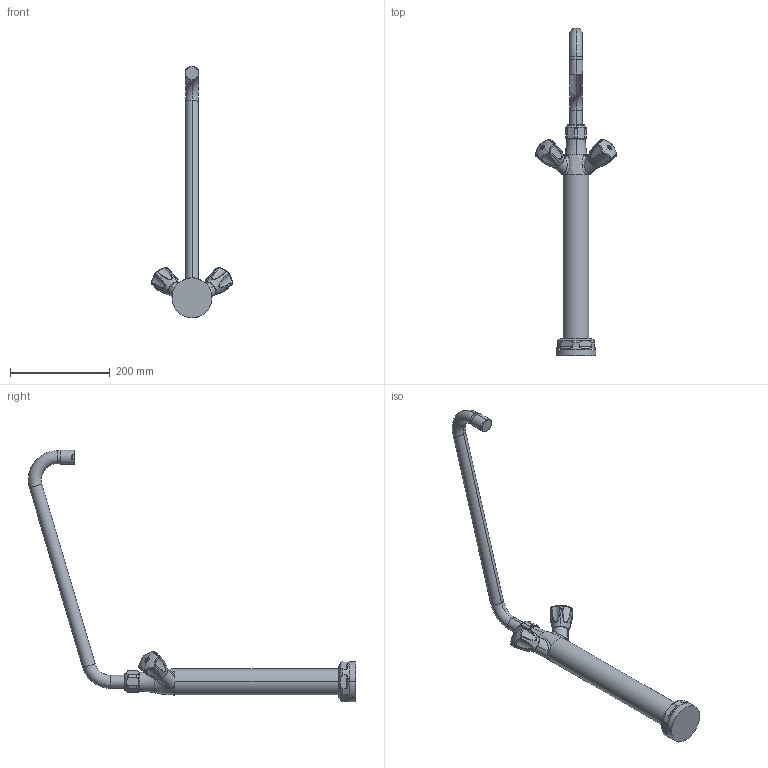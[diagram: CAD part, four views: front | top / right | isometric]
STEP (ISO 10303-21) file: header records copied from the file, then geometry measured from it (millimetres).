
FILE_DESCRIPTION((''),'2;1');
FILE_NAME('K_24_41_34_000C07','2012-01-09T',('HEF'),(''),'PRO/ENGINEER BY PARAMETRIC TECHNOLOGY CORPORATION, 2011080','PRO/ENGINEER BY PARAMETRIC TECHNOLOGY CORPORATION, 2011080','');
FILE_SCHEMA(('AUTOMOTIVE_DESIGN_CC2 { 1 2 10303 214 -1 1 5 2 }'));
Length unit declared in the file: millimetre
Products named in the file (1): K_24_41_34_000C07
Bounding box: 163.48 x 656.08 x 504.04 mm (x, y, z)
Volume: 1485109.3 mm3; surface area: 155343.4 mm2
Topology: 1 solids, 1 shells, 279 faces, 675 edges, 415 vertices
Faces by surface type: plane 101, cylinder 54, torus 46, bspline 40, sphere 28, cone 6, extrusion 4
Entity records: 17887 total; most frequent: CARTESIAN_POINT 9395, ORIENTED_EDGE 1350, DIRECTION 1250, EDGE_CURVE 675, AXIS2_PLACEMENT_3D 496, VERTEX_POINT 415, FILL_AREA_STYLE_COLOUR 325, FILL_AREA_STYLE 325
